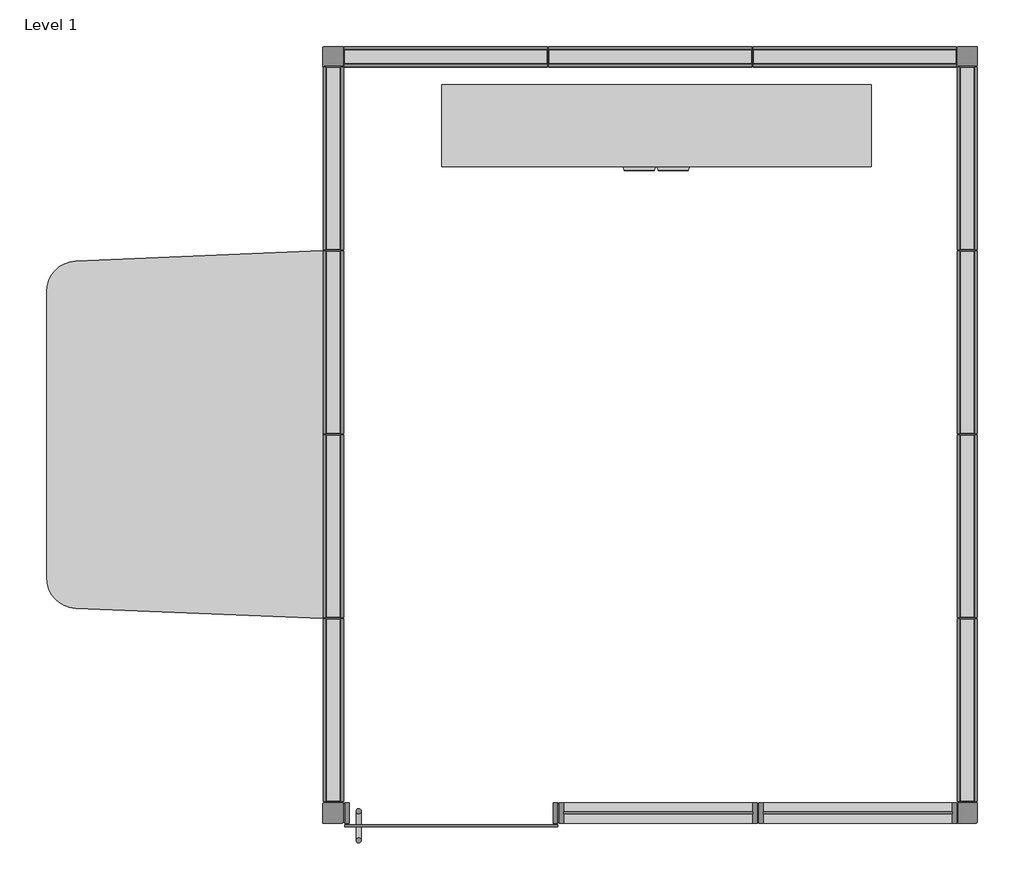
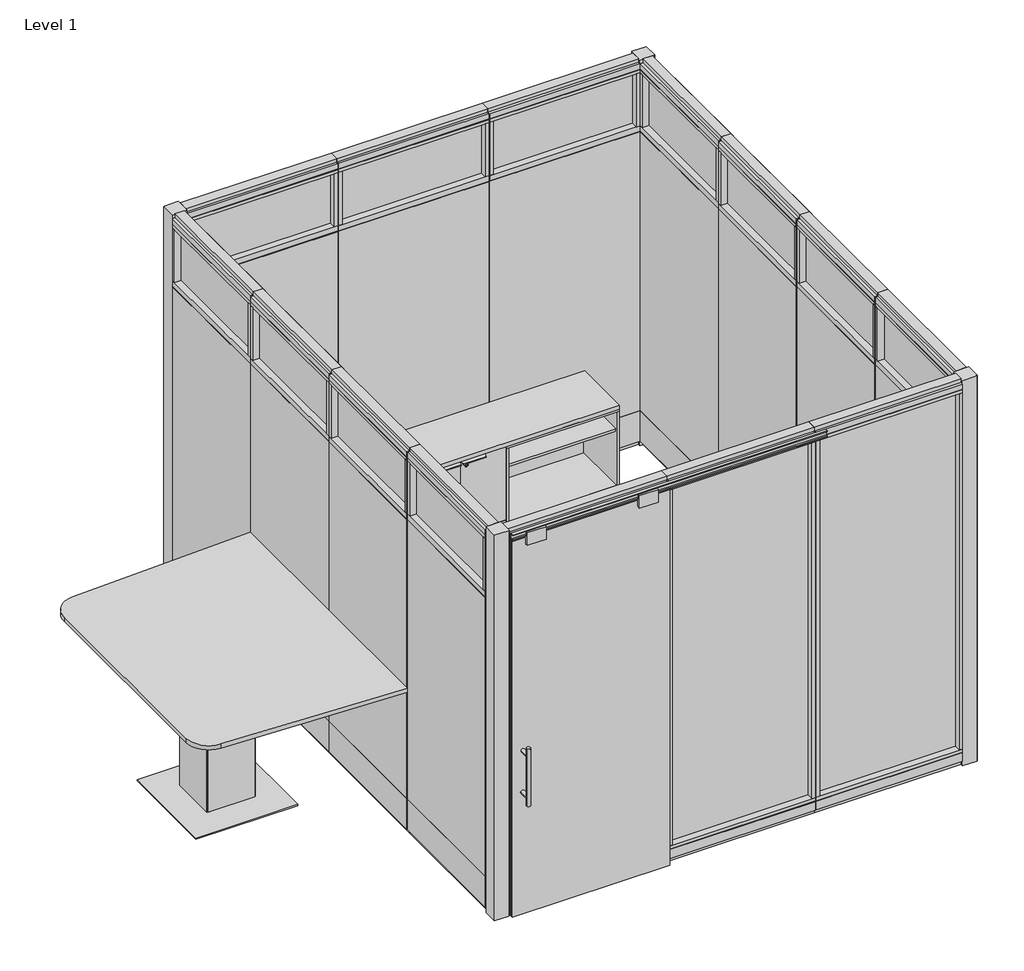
# One storey, incomplete: 23 furniture elements.
"""IFC4 building model written with IfcOpenShell, lengths in millimetres."""

from ifc_helpers import new_model, si_unit, origin, place, context, project, spatial, transform, mapped, element, save
from components import furniture_1b12cd25, furniture_22h_30w_9ee1d05e, furniture_b4820b19, furniture_63bf6b26, furniture_ec360300, furniture_4e5c30b6, furniture_cd05365a, furniture_5e6cb925, furniture_4e7281c9, closed_system_2_way_90_8ed795e9, furniture_adc97c1b, haworth_planes_columnbaseconferencetable_key_84w_60d_c3e30df3

model = new_model("IFC4")

# Units and contexts
model_context = context("Model", 3, world=origin())
ifc_project = project(units=[si_unit("LENGTHUNIT", "METRE", prefix="MILLI")], contexts=[model_context])

# Site, building, storey
site = spatial("IfcSite", under=ifc_project)
building = spatial("IfcBuilding", under=site)
storey = spatial("IfcBuildingStorey", under=building, Name="Level 1", Elevation=0.0)

# Furniture
placement = place(None, origin())
furniture_shape = furniture_1b12cd25(model_context)
element("IfcFurniture", 1, ObjectType="Haworth_BeHold_Modular_AttachedStorage : 1.5H - Double Doors - Proud Back - 16d 24w", at=placement, inside=storey, context=model_context, shape_type="MappedRepresentation", body=[
    mapped(furniture_shape, transform((12571.7525368, 4203.580024, 152.4), x_axis=(1.0, 0.0, 0.0), y_axis=(0.0, 1.0, 0.0), z_axis=(0.0, 0.0, 1.0))),
])
furniture_22h_30w_shape = furniture_22h_30w_9ee1d05e(model_context)
element("IfcFurniture", 2, ObjectType="Haworth_BeHold_Bookcase : 22h 30w", at=placement, inside=storey, context=model_context, shape_type="MappedRepresentation", body=[
    mapped(furniture_22h_30w_shape, transform((11887.9845591, 4203.5799176, 152.4), x_axis=(1.0, 0.0, 0.0), y_axis=(0.0, 1.0, 0.0), z_axis=(0.0, 0.0, 1.0))),
])
element("IfcFurniture", 3, ObjectType="Haworth_BeHold_Bookcase : 22h 30w", at=placement, inside=storey, context=model_context, shape_type="MappedRepresentation", body=[
    mapped(furniture_22h_30w_shape, transform((13259.5845591, 4203.5799176, 152.4), x_axis=(1.0, 0.0, 0.0), y_axis=(0.0, 1.0, 0.0), z_axis=(0.0, 0.0, 1.0))),
])
furniture_2_shape = furniture_b4820b19(model_context)
element("IfcFurniture", 4, ObjectType="Haworth_Enclose_Wall_SolidTransom : 36\" x 108\"", at=placement, inside=storey, context=model_context, shape_type="MappedRepresentation", body=[
    mapped(furniture_2_shape, transform((13964.7664061, 3808.1531904, 0.0), x_axis=(0.0, 1.0, 0.0), y_axis=(-1.0, 0.0, 0.0), z_axis=(0.0, 0.0, 1.0))),
])
element("IfcFurniture", 5, ObjectType="Haworth_Enclose_Wall_SolidTransom : 36\" x 108\"", at=placement, inside=storey, context=model_context, shape_type="MappedRepresentation", body=[
    mapped(furniture_2_shape, transform((13964.7664061, 1979.3531904, 0.0), x_axis=(0.0, 1.0, 0.0), y_axis=(-1.0, 0.0, 0.0), z_axis=(0.0, 0.0, 1.0))),
])
element("IfcFurniture", 6, ObjectType="Haworth_Enclose_Wall_SolidTransom : 36\" x 108\"", at=placement, inside=storey, context=model_context, shape_type="MappedRepresentation", body=[
    mapped(furniture_2_shape, transform((10814.6350271, 3808.1531904, 0.0), x_axis=(0.0, 1.0, 0.0), y_axis=(-1.0, 0.0, 0.0), z_axis=(0.0, 0.0, 1.0))),
])
element("IfcFurniture", 7, ObjectType="Haworth_Enclose_Wall_SolidTransom : 36\" x 108\"", at=placement, inside=storey, context=model_context, shape_type="MappedRepresentation", body=[
    mapped(furniture_2_shape, transform((10814.6350271, 1979.3531904, 0.0), x_axis=(0.0, 1.0, 0.0), y_axis=(-1.0, 0.0, 0.0), z_axis=(0.0, 0.0, 1.0))),
])
furniture_3_shape = furniture_63bf6b26(model_context)
element("IfcFurniture", 8, ObjectType="Haworth_Enclose_Wall_SolidTransom : 36\" x 108\"", at=placement, inside=storey, context=model_context, shape_type="MappedRepresentation", body=[
    mapped(furniture_3_shape, transform((13964.7664061, 2773.6801445, 0.0), x_axis=(0.0, -1.0, 0.0), y_axis=(1.0, 0.0, 0.0), z_axis=(0.0, 0.0, 1.0))),
])
element("IfcFurniture", 9, ObjectType="Haworth_Enclose_Wall_SolidTransom : 36\" x 108\"", at=placement, inside=storey, context=model_context, shape_type="MappedRepresentation", body=[
    mapped(furniture_3_shape, transform((13964.7664061, 944.8801445, 0.0), x_axis=(0.0, -1.0, 0.0), y_axis=(1.0, 0.0, 0.0), z_axis=(0.0, 0.0, 1.0))),
])
element("IfcFurniture", 10, ObjectType="Haworth_Enclose_Wall_SolidTransom : 36\" x 108\"", at=placement, inside=storey, context=model_context, shape_type="MappedRepresentation", body=[
    mapped(furniture_3_shape, transform((10814.6350271, 2773.6801445, 0.0), x_axis=(0.0, -1.0, 0.0), y_axis=(1.0, 0.0, 0.0), z_axis=(0.0, 0.0, 1.0))),
])
element("IfcFurniture", 11, ObjectType="Haworth_Enclose_Wall_SolidTransom : 36\" x 108\"", at=placement, inside=storey, context=model_context, shape_type="MappedRepresentation", body=[
    mapped(furniture_3_shape, transform((10814.6350271, 944.8801445, 0.0), x_axis=(0.0, -1.0, 0.0), y_axis=(1.0, 0.0, 0.0), z_axis=(0.0, 0.0, 1.0))),
])
furniture_4_shape = furniture_ec360300(model_context)
element("IfcFurniture", 12, ObjectType="Haworth_Enclose_Wall_Glass : 39\" x 108\"", at=placement, inside=storey, context=model_context, shape_type="MappedRepresentation", body=[
    mapped(furniture_4_shape, transform((12485.0377381, 498.165175, 0.0), x_axis=(1.0, 0.0, 0.0), y_axis=(0.0, 1.0, 0.0), z_axis=(0.0, 0.0, 1.0))),
])
furniture_5_shape = furniture_4e5c30b6(model_context)
element("IfcFurniture", 13, ObjectType="Haworth_Enclose_Wall_Glass : 39\" x 108\"", at=placement, inside=storey, context=model_context, shape_type="MappedRepresentation", body=[
    mapped(furniture_5_shape, transform((13356.3584422, 498.165175, 0.0), x_axis=(-1.0, 0.0, 0.0), y_axis=(0.0, -1.0, 0.0), z_axis=(0.0, 0.0, 1.0))),
])
furniture_6_shape = furniture_cd05365a(model_context)
element("IfcFurniture", 14, ObjectType="Haworth_Enclose_Wall_SolidTransom : 40\" x 108\"", at=placement, inside=storey, context=model_context, shape_type="MappedRepresentation", body=[
    mapped(furniture_6_shape, transform((11428.4408525, 4257.3838844, 0.0), x_axis=(1.0, 0.0, 0.0), y_axis=(0.0, 1.0, 0.0), z_axis=(0.0, 0.0, 1.0))),
])
element("IfcFurniture", 15, ObjectType="Haworth_Enclose_Wall_SolidTransom : 40\" x 108\"", at=placement, inside=storey, context=model_context, shape_type="MappedRepresentation", body=[
    mapped(furniture_6_shape, transform((13460.4408525, 4257.3838844, 0.0), x_axis=(1.0, 0.0, 0.0), y_axis=(0.0, 1.0, 0.0), z_axis=(0.0, 0.0, 1.0))),
])
furniture_7_shape = furniture_5e6cb925(model_context)
element("IfcFurniture", 16, ObjectType="Haworth_Enclose_Wall_SolidTransom : 40\" x 108\"", at=placement, inside=storey, context=model_context, shape_type="MappedRepresentation", body=[
    mapped(furniture_7_shape, transform((12324.3678067, 4257.3838844, 0.0), x_axis=(-1.0, 0.0, 0.0), y_axis=(0.0, -1.0, 0.0), z_axis=(0.0, 0.0, 1.0))),
])
furniture_8_shape = furniture_4e7281c9(model_context)
element("IfcFurniture", 17, ObjectType="Haworth_EncloseFrameless_Door_SingleSliding : 42\" x 108\"", at=placement, inside=storey, context=model_context, shape_type="MappedRepresentation", body=[
    mapped(furniture_8_shape, transform((11455.9408631, 498.1651753, 0.0), x_axis=(1.0, 0.0, 0.0), y_axis=(0.0, 1.0, 0.0), z_axis=(0.0, 0.0, 1.0))),
])
closed_system_2_way_90_shape = closed_system_2_way_90_8ed795e9(model_context)
element("IfcFurniture", 18, ObjectType="Haworth_Enclose_Accessories_WallModuleIntersection : Closed System_2 Way_90", at=placement, inside=storey, context=model_context, shape_type="MappedRepresentation", body=[
    mapped(closed_system_2_way_90_shape, transform((10889.3064933, 470.0454832, 0.0), x_axis=(-1.0000000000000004, 0.0, 0.0), y_axis=(0.0, -1.0000000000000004, 0.0), z_axis=(0.0, 0.0, 1.0))),
])
element("IfcFurniture", 19, ObjectType="Haworth_Enclose_Accessories_WallModuleIntersection : Closed System_2 Way_90", at=placement, inside=storey, context=model_context, shape_type="MappedRepresentation", body=[
    mapped(closed_system_2_way_90_shape, transform((10889.3064933, 4229.2454832, 0.0), x_axis=(-1.0000000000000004, 0.0, 0.0), y_axis=(0.0, -1.0000000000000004, 0.0), z_axis=(0.0, 0.0, 1.0))),
])
element("IfcFurniture", 20, ObjectType="Haworth_Enclose_Accessories_WallModuleIntersection : Closed System_2 Way_90", at=placement, inside=storey, context=model_context, shape_type="MappedRepresentation", body=[
    mapped(closed_system_2_way_90_shape, transform((14038.9064933, 4229.2454832, 0.0), x_axis=(-1.0000000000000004, 0.0, 0.0), y_axis=(0.0, -1.0000000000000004, 0.0), z_axis=(0.0, 0.0, 1.0))),
])
element("IfcFurniture", 21, ObjectType="Haworth_Enclose_Accessories_WallModuleIntersection : Closed System_2 Way_90", at=placement, inside=storey, context=model_context, shape_type="MappedRepresentation", body=[
    mapped(closed_system_2_way_90_shape, transform((14038.9064933, 470.0454832, 0.0), x_axis=(-1.0000000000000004, 0.0, 0.0), y_axis=(0.0, -1.0000000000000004, 0.0), z_axis=(0.0, 0.0, 1.0))),
])
furniture_9_shape = furniture_adc97c1b(model_context)
element("IfcFurniture", 22, ObjectType="Haworth_BesideStorage_BaseUnit_Top : 18\" x 96\"", at=placement, inside=storey, context=model_context, shape_type="MappedRepresentation", body=[
    mapped(furniture_9_shape, transform((12416.9253329, 3910.4636786, 0.0), x_axis=(1.0, 0.0, 0.0), y_axis=(0.0, 1.0, 0.0), z_axis=(0.0, 0.0, 1.0))),
])
haworth_planes_columnbaseconferencetable_key_84w_60d_shape = haworth_planes_columnbaseconferencetable_key_84w_60d_c3e30df3(model_context)
element("IfcFurniture", 23, ObjectType="Haworth_Planes_ColumnBaseConferenceTable_Key : 84w 60d", at=placement, inside=storey, context=model_context, shape_type="MappedRepresentation", body=[
    mapped(haworth_planes_columnbaseconferencetable_key_84w_60d_shape, transform((10071.1043083, 2377.671053, 0.0), x_axis=(1.0, 0.0, 0.0), y_axis=(0.0, 1.0, 0.0), z_axis=(0.0, 0.0, 1.0))),
])

save(model, "model.ifc")
